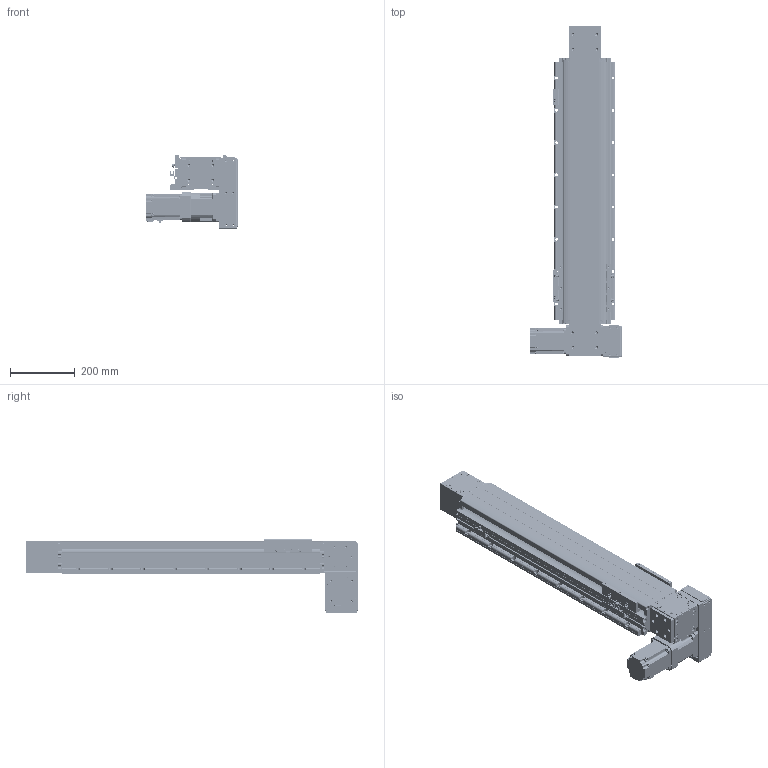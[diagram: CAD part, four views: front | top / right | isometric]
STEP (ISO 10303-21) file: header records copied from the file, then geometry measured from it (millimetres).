
FILE_DESCRIPTION(/* description */ (''),/* implementation_level */ '2;1');
FILE_NAME(/* name */ '\\192.168.0.160\disk1\HAN SHIN Master\B-설계부문\C-표준\B-2024년\BC02-표준도면\+로봇 개선표준도면\홈페이지 표준 도면\홈페이지 최종 작업 폴더\3D\HSB\HSB160\HSB160-DR7G-N-0600-L.stp',/* time_stamp */ '2025-01-10T13:40:15+09:00',/* author */ ('user'),/* organization */ (''),/* preprocessor_version */ 'ST-DEVELOPER v18.1',/* originating_system */ 'Autodesk Inventor 2022',/* authorisation */ '');
FILE_SCHEMA (('AUTOMOTIVE_DESIGN { 1 0 10303 214 3 1 1 }'));
Products named in the file (42): HSB160-DR7G-N-0500-L; BASE; HSB160 TABLE (TEST); FORNT HOUSUNG-1 (Connecting); UPCOVER; HSB160 COVER-1; REAR HOUSUNG-1---; HSB160 REAR SHAFT-2; REAR SHAFT--2; 6004ZZ; 6004ZZ Outer ring; 6004ZZ Shield1; 6004ZZ Inner ring; 6004ZZ Ball; 6004ZZ Shield2; STOPPER3; TENSION PLATE; HSB160 ARC COVER; hsr_ftht_A-M6F_grease_nipple_joint; NIPPLE CAP(신규); SIDE COVER; HSB160 SHAFT-1; HSB160 END COVER; HR120 SENSOR DOG; SENSOR BRK(EE-SX674A); EE_SX674A; hg-kr73_; PGX90-H-1_3; 6206ZZ; 6206ZZ Outer ring; 6206ZZ Shield1; 6206ZZ Inner ring; 6206ZZ Ball; 6206ZZ Shield2; D MOTOR PLATE ASSY; HSB160 D MOTOR PLATE; HR160 400W LR BELT COVER; 750W MOTOR PLATE; HR180 ACRYL COVER - 1; HR180 ACRYL COVER - 1_1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
Assembly tree (87 placements, depth 3):
  HSB160-DR7G-N-0500-L
    BASE
    HSB160 TABLE (TEST)
    FORNT HOUSUNG-1 (Connecting)
    6206ZZ  x2
      6206ZZ Outer ring
      6206ZZ Shield1
      6206ZZ Inner ring
      6206ZZ Ball
      6206ZZ Shield2
    UPCOVER
    HSB160 COVER-1  x2
    REAR HOUSUNG-1---
    6004ZZ  x2
      6004ZZ Outer ring
      6004ZZ Shield1
      6004ZZ Inner ring
      6004ZZ Ball
      6004ZZ Shield2
    HSB160 REAR SHAFT-2
    REAR SHAFT--2
    TENSION PLATE  x2
    HSB160 ARC COVER  x4
    STOPPER3  x4
    SIDE COVER  x2
    hsr_ftht_A-M6F_grease_nipple_joint  x4
    NIPPLE CAP(신규)  x4
    HSB160 SHAFT-1
    HSB160 END COVER
    SENSOR BRK(EE-SX674A)  x3
    EE_SX674A  x3
    HR120 SENSOR DOG
    hg-kr73_
    PGX90-H-1_3
    D MOTOR PLATE ASSY
      HSB160 D MOTOR PLATE
      HR160 400W LR BELT COVER
      750W MOTOR PLATE
      HR180 ACRYL COVER - 1_2  x2
      HR180 ACRYL COVER - 1
      HR180 ACRYL COVER - 1_1
    HSB160 BEARING COVER_대칭도
Bounding box: 284.5 x 1028.5 x 226.5 mm (x, y, z)
Volume: 7681689.2 mm3; surface area: 2024933.9 mm2
Topology: 131 solids, 133 shells, 6458 faces, 17705 edges, 11642 vertices
Faces by surface type: plane 4514, cylinder 1397, cone 375, sphere 88, torus 59, bspline 25
Full cylindrical faces by diameter (mm): 2.013 x2, 2.459 x54, 3 x20, 3.242 x50, 3.4 x22, 3.5 x6, 4.134 x18, 4.2 x4, 4.5 x40, 4.917 x74, 5 x44, 5.1 x1, 5.5 x25, 5.6 x4, 5.9 x4, 6 x21, 6.5 x9, 6.6 x18, 6.8 x9, 7 x32, 7.6 x4, 8 x5, 8.376 x16, 8.433 x2, 9 x4, 9.5 x31, 10 x5, 11 x28, 15 x8, 18.5 x2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
Entity records: 117244 total; most frequent: CARTESIAN_POINT 22235, DIRECTION 19462, ORIENTED_EDGE 18878, EDGE_CURVE 9439, AXIS2_PLACEMENT_3D 6604, LINE 6254, VECTOR 6254, VERTEX_POINT 6243
